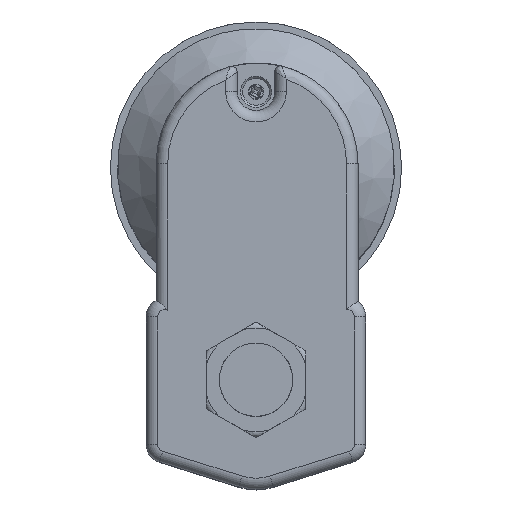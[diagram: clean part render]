
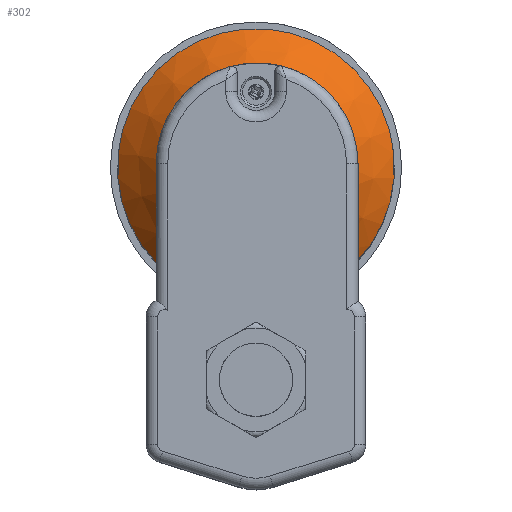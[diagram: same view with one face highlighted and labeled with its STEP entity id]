
A CAD part, top view. The second image highlights one B-rep face of the part: STEP entity #302.
In plain terms, the highlighted conical face has half-angle 45 degrees and reference radius 48 mm.
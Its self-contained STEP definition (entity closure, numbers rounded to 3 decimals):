
#40 = VERTEX_POINT ( 'NONE', #2783 ) ;
#52 = VERTEX_POINT ( 'NONE', #2795 ) ;
#240 = B_SPLINE_CURVE_WITH_KNOTS ( 'NONE', 3,
 ( #1638, #1641, #1642, #1643, #1644, #1645, #1646, #1647, #1648, #1649, #1650, #1651, #1652, #1653, #1654, #1655, #1656, #1657, #1658, #1659, #1660, #1661, #1662, #1663, #1664, #1665 ),
 .UNSPECIFIED., .F., .F.,
 ( 4, 2, 2, 2, 2, 2, 2, 2, 2, 2, 2, 2, 4 ),
 ( 0., 0.004, 0.007, 0.015, 0.018, 0.022, 0.026, 0.029, 0.037, 0.04, 0.044, 0.051, 0.059 ),
 .UNSPECIFIED. ) ;
#302 = ADVANCED_FACE ( 'NONE', ( #5023, #5017 ), #5024, .T. ) ;
#1628 = CARTESIAN_POINT ( 'NONE',  ( 0., 73.9, 53.5 ) ) ;
#1638 = CARTESIAN_POINT ( 'NONE',  ( -27.908, 34.847, 53.5 ) ) ;
#1639 = DIRECTION ( 'NONE',  ( 0., 0., 1. ) ) ;
#1640 = DIRECTION ( 'NONE',  ( 0., -1., 0. ) ) ;
#1641 = CARTESIAN_POINT ( 'NONE',  ( -26.826, 34.768, 54.065 ) ) ;
#1642 = CARTESIAN_POINT ( 'NONE',  ( -25.733, 34.688, 54.609 ) ) ;
#1643 = CARTESIAN_POINT ( 'NONE',  ( -23.531, 34.53, 55.644 ) ) ;
#1644 = CARTESIAN_POINT ( 'NONE',  ( -22.421, 34.452, 56.137 ) ) ;
#1645 = CARTESIAN_POINT ( 'NONE',  ( -19.06, 34.223, 57.53 ) ) ;
#1646 = CARTESIAN_POINT ( 'NONE',  ( -16.779, 34.077, 58.344 ) ) ;
#1647 = CARTESIAN_POINT ( 'NONE',  ( -13.28, 33.887, 59.356 ) ) ;
#1648 = CARTESIAN_POINT ( 'NONE',  ( -12.101, 33.829, 59.657 ) ) ;
#1649 = CARTESIAN_POINT ( 'NONE',  ( -9.715, 33.725, 60.183 ) ) ;
#1650 = CARTESIAN_POINT ( 'NONE',  ( -8.505, 33.679, 60.407 ) ) ;
#1651 = CARTESIAN_POINT ( 'NONE',  ( -6.081, 33.605, 60.767 ) ) ;
#1652 = CARTESIAN_POINT ( 'NONE',  ( -4.863, 33.577, 60.903 ) ) ;
#1653 = CARTESIAN_POINT ( 'NONE',  ( -2.415, 33.538, 61.085 ) ) ;
#1654 = CARTESIAN_POINT ( 'NONE',  ( -1.188, 33.529, 61.13 ) ) ;
#1655 = CARTESIAN_POINT ( 'NONE',  ( 2.477, 33.529, 61.127 ) ) ;
#1656 = CARTESIAN_POINT ( 'NONE',  ( 4.908, 33.569, 60.942 ) ) ;
#1657 = CARTESIAN_POINT ( 'NONE',  ( 8.537, 33.68, 60.402 ) ) ;
#1658 = CARTESIAN_POINT ( 'NONE',  ( 9.746, 33.726, 60.177 ) ) ;
#1659 = CARTESIAN_POINT ( 'NONE',  ( 12.13, 33.83, 59.65 ) ) ;
#1660 = CARTESIAN_POINT ( 'NONE',  ( 13.307, 33.888, 59.348 ) ) ;
#1661 = CARTESIAN_POINT ( 'NONE',  ( 16.801, 34.078, 58.337 ) ) ;
#1662 = CARTESIAN_POINT ( 'NONE',  ( 19.078, 34.224, 57.523 ) ) ;
#1663 = CARTESIAN_POINT ( 'NONE',  ( 23.55, 34.529, 55.668 ) ) ;
#1664 = CARTESIAN_POINT ( 'NONE',  ( 25.745, 34.688, 54.629 ) ) ;
#1665 = CARTESIAN_POINT ( 'NONE',  ( 27.908, 34.847, 53.5 ) ) ;
#1666 = CARTESIAN_POINT ( 'NONE',  ( 0., 73.9, 67.5 ) ) ;
#1670 = DIRECTION ( 'NONE',  ( 0., 0., 1. ) ) ;
#1671 = DIRECTION ( 'NONE',  ( 0., -1., 0. ) ) ;
#1943 = VERTEX_POINT ( 'NONE', #1944 ) ;
#1944 = CARTESIAN_POINT ( 'NONE',  ( 0., 39.9, 67.5 ) ) ;
#2278 = EDGE_CURVE ( 'NONE', #40, #52, #5700, .T. ) ;
#2279 = EDGE_CURVE ( 'NONE', #52, #40, #240, .T. ) ;
#2281 = EDGE_CURVE ( 'NONE', #1943, #1943, #5702, .T. ) ;
#2372 = AXIS2_PLACEMENT_3D ( 'NONE', #3070, #3071, #3060 ) ;
#2656 = AXIS2_PLACEMENT_3D ( 'NONE', #1666, #1670, #1671 ) ;
#2665 = AXIS2_PLACEMENT_3D ( 'NONE', #1628, #1639, #1640 ) ;
#2783 = CARTESIAN_POINT ( 'NONE',  ( 27.908, 34.847, 53.5 ) ) ;
#2795 = CARTESIAN_POINT ( 'NONE',  ( -27.908, 34.847, 53.5 ) ) ;
#3060 = DIRECTION ( 'NONE',  ( 0., 1., 0. ) ) ;
#3070 = CARTESIAN_POINT ( 'NONE',  ( 0., 73.9, 53.5 ) ) ;
#3071 = DIRECTION ( 'NONE',  ( 0., 0., -1. ) ) ;
#4579 = ORIENTED_EDGE ( 'NONE', *, *, #2281, .F. ) ;
#4580 = ORIENTED_EDGE ( 'NONE', *, *, #2278, .T. ) ;
#4581 = ORIENTED_EDGE ( 'NONE', *, *, #2279, .T. ) ;
#4680 = EDGE_LOOP ( 'NONE', ( #4580, #4581 ) ) ;
#4687 = EDGE_LOOP ( 'NONE', ( #4579 ) ) ;
#5017 = FACE_OUTER_BOUND ( 'NONE', #4680, .T. ) ;
#5023 = FACE_BOUND ( 'NONE', #4687, .T. ) ;
#5024 = CONICAL_SURFACE ( 'NONE', #2372, 48., 0.785 ) ;
#5700 = CIRCLE ( 'NONE', #2665, 48. ) ;
#5702 = CIRCLE ( 'NONE', #2656, 34. ) ;
